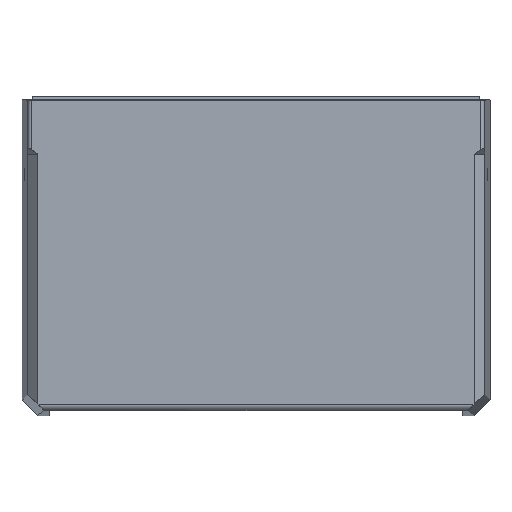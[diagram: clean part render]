
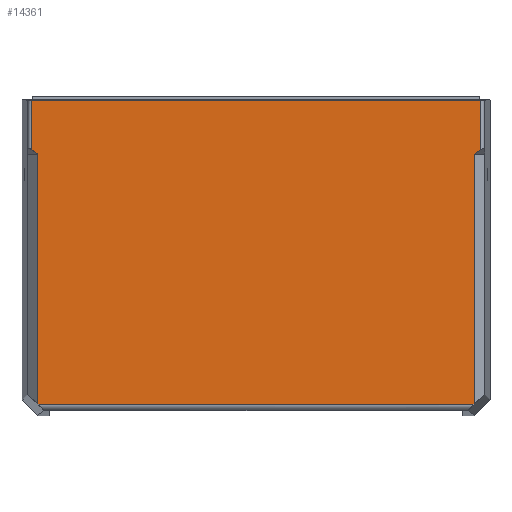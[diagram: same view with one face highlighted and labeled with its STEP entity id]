
A CAD part, front view. The second image highlights one B-rep face of the part: STEP entity #14361.
In plain terms, the highlighted planar face has unit normal (0, -1, 0).
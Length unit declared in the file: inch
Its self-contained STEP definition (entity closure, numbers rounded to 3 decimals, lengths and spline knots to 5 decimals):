
#44 = VERTEX_POINT ( 'NONE', #3084 ) ;
#149 = DIRECTION ( 'NONE',  ( 0.706, 0., 0.708 ) ) ;
#418 = LINE ( 'NONE', #8762, #12463 ) ;
#542 = EDGE_CURVE ( 'NONE', #14111, #7398, #785, .T. ) ;
#630 = ORIENTED_EDGE ( 'NONE', *, *, #2948, .T. ) ;
#719 = EDGE_CURVE ( 'NONE', #3159, #44, #6921, .T. ) ;
#785 = LINE ( 'NONE', #11101, #10366 ) ;
#852 = EDGE_CURVE ( 'NONE', #6594, #2374, #5426, .T. ) ;
#983 = EDGE_CURVE ( 'NONE', #12293, #9006, #15307, .T. ) ;
#1132 = LINE ( 'NONE', #2767, #13229 ) ;
#1385 = EDGE_LOOP ( 'NONE', ( #9151, #11467, #2116, #10985, #10974, #15006, #1973, #4895, #8245, #13675, #630 ) ) ;
#1405 = VERTEX_POINT ( 'NONE', #5445 ) ;
#1439 = CARTESIAN_POINT ( 'NONE',  ( 3.73895, -1.971, -2.5663 ) ) ;
#1567 = DIRECTION ( 'NONE',  ( 1., 0., 0. ) ) ;
#1973 = ORIENTED_EDGE ( 'NONE', *, *, #4006, .T. ) ;
#1975 = CARTESIAN_POINT ( 'NONE',  ( -3.76193, -1.971, 1.75293 ) ) ;
#2113 = DIRECTION ( 'NONE',  ( 0.708, 0., -0.706 ) ) ;
#2116 = ORIENTED_EDGE ( 'NONE', *, *, #12974, .T. ) ;
#2318 = FACE_OUTER_BOUND ( 'NONE', #1385, .T. ) ;
#2374 = VERTEX_POINT ( 'NONE', #13072 ) ;
#2762 = DIRECTION ( 'NONE',  ( 0.816, 0., 0.577 ) ) ;
#2767 = CARTESIAN_POINT ( 'NONE',  ( 3.66033, -1.971, -2.5663 ) ) ;
#2948 = EDGE_CURVE ( 'NONE', #44, #12293, #418, .T. ) ;
#3084 = CARTESIAN_POINT ( 'NONE',  ( 3.76193, -1.971, 1.75354 ) ) ;
#3159 = VERTEX_POINT ( 'NONE', #7693 ) ;
#3322 = CARTESIAN_POINT ( 'NONE',  ( -3.76193, -1.971, -2.54758 ) ) ;
#3329 = CARTESIAN_POINT ( 'NONE',  ( -3.73865, -1.971, -2.5663 ) ) ;
#3347 = VECTOR ( 'NONE', #2113, 39.37008 ) ;
#4006 = EDGE_CURVE ( 'NONE', #2374, #10628, #6499, .T. ) ;
#4052 = CARTESIAN_POINT ( 'NONE',  ( -3.87477, -1.971, 1.87 ) ) ;
#4134 = EDGE_CURVE ( 'NONE', #9006, #1405, #5009, .T. ) ;
#4211 = CARTESIAN_POINT ( 'NONE',  ( 3.87477, -1.971, 2.687 ) ) ;
#4364 = CARTESIAN_POINT ( 'NONE',  ( -3.76607, -1.971, 1.76 ) ) ;
#4802 = DIRECTION ( 'NONE',  ( 0., 0., 1. ) ) ;
#4895 = ORIENTED_EDGE ( 'NONE', *, *, #12030, .T. ) ;
#5009 = LINE ( 'NONE', #9621, #10713 ) ;
#5103 = CARTESIAN_POINT ( 'NONE',  ( -4.035, -1.971, 2.755 ) ) ;
#5105 = EDGE_CURVE ( 'NONE', #6721, #3159, #13934, .T. ) ;
#5426 = LINE ( 'NONE', #3322, #11137 ) ;
#5445 = CARTESIAN_POINT ( 'NONE',  ( -3.87477, -1.971, 2.687 ) ) ;
#5541 =( BOUNDED_CURVE ( )  B_SPLINE_CURVE ( 3, ( #1975, #9159, #11632, #4364 ),
 .UNSPECIFIED., .F., .T. ) 
 B_SPLINE_CURVE_WITH_KNOTS ( ( 4, 4 ),
 ( 0., 0.7854 ),
 .UNSPECIFIED. ) 
 CURVE ( )  GEOMETRIC_REPRESENTATION_ITEM ( )  RATIONAL_B_SPLINE_CURVE ( ( 1., 0.949, 0.949, 1. ) ) 
 REPRESENTATION_ITEM ( '' )  );
#5559 = VECTOR ( 'NONE', #13733, 39.37008 ) ;
#5599 = VECTOR ( 'NONE', #10986, 39.37008 ) ;
#5833 = CARTESIAN_POINT ( 'NONE',  ( -3.76193, -1.971, 1.75293 ) ) ;
#5932 = LINE ( 'NONE', #4052, #5559 ) ;
#6285 = DIRECTION ( 'NONE',  ( 0., 1., 0. ) ) ;
#6365 = CARTESIAN_POINT ( 'NONE',  ( -3.76607, -1.971, 1.76 ) ) ;
#6499 = LINE ( 'NONE', #9363, #3347 ) ;
#6594 = VERTEX_POINT ( 'NONE', #5833 ) ;
#6721 = VERTEX_POINT ( 'NONE', #1439 ) ;
#6921 = LINE ( 'NONE', #7409, #13437 ) ;
#7224 = DIRECTION ( 'NONE',  ( 0., 0., -1. ) ) ;
#7398 = VERTEX_POINT ( 'NONE', #6365 ) ;
#7409 = CARTESIAN_POINT ( 'NONE',  ( 3.76193, -1.971, 2.755 ) ) ;
#7693 = CARTESIAN_POINT ( 'NONE',  ( 3.76193, -1.971, -2.54325 ) ) ;
#8225 = CARTESIAN_POINT ( 'NONE',  ( -3.87477, -1.971, 1.83686 ) ) ;
#8245 = ORIENTED_EDGE ( 'NONE', *, *, #5105, .T. ) ;
#8486 = EDGE_CURVE ( 'NONE', #6594, #7398, #5541, .T. ) ;
#8518 = CARTESIAN_POINT ( 'NONE',  ( 3.76071, -1.971, -2.54447 ) ) ;
#8762 = CARTESIAN_POINT ( 'NONE',  ( -0.96393, -1.971, -1.58815 ) ) ;
#9006 = VERTEX_POINT ( 'NONE', #4211 ) ;
#9151 = ORIENTED_EDGE ( 'NONE', *, *, #983, .T. ) ;
#9159 = CARTESIAN_POINT ( 'NONE',  ( -3.76193, -1.971, 1.75562 ) ) ;
#9363 = CARTESIAN_POINT ( 'NONE',  ( -3.74195, -1.971, -2.56301 ) ) ;
#9621 = CARTESIAN_POINT ( 'NONE',  ( -4.035, -1.971, 2.687 ) ) ;
#9715 = AXIS2_PLACEMENT_3D ( 'NONE', #5103, #6285, #14834 ) ;
#10366 = VECTOR ( 'NONE', #11128, 39.37008 ) ;
#10628 = VERTEX_POINT ( 'NONE', #3329 ) ;
#10713 = VECTOR ( 'NONE', #13326, 39.37008 ) ;
#10952 = CARTESIAN_POINT ( 'NONE',  ( 3.87477, -1.971, 2.692 ) ) ;
#10974 = ORIENTED_EDGE ( 'NONE', *, *, #8486, .F. ) ;
#10985 = ORIENTED_EDGE ( 'NONE', *, *, #542, .T. ) ;
#10986 = DIRECTION ( 'NONE',  ( 0., 0., 1. ) ) ;
#11101 = CARTESIAN_POINT ( 'NONE',  ( -4.4144, -1.971, 2.21844 ) ) ;
#11128 = DIRECTION ( 'NONE',  ( 0.816, 0., -0.577 ) ) ;
#11137 = VECTOR ( 'NONE', #7224, 39.37008 ) ;
#11467 = ORIENTED_EDGE ( 'NONE', *, *, #4134, .T. ) ;
#11632 = CARTESIAN_POINT ( 'NONE',  ( -3.76338, -1.971, 1.7581 ) ) ;
#12030 = EDGE_CURVE ( 'NONE', #10628, #6721, #1132, .T. ) ;
#12293 = VERTEX_POINT ( 'NONE', #12972 ) ;
#12383 = PLANE ( 'NONE',  #9715 ) ;
#12463 = VECTOR ( 'NONE', #2762, 39.37008 ) ;
#12972 = CARTESIAN_POINT ( 'NONE',  ( 3.87477, -1.971, 1.83332 ) ) ;
#12974 = EDGE_CURVE ( 'NONE', #1405, #14111, #5932, .T. ) ;
#13072 = CARTESIAN_POINT ( 'NONE',  ( -3.76193, -1.971, -2.54309 ) ) ;
#13229 = VECTOR ( 'NONE', #1567, 39.37008 ) ;
#13326 = DIRECTION ( 'NONE',  ( -1., 0., 0. ) ) ;
#13437 = VECTOR ( 'NONE', #4802, 39.37008 ) ;
#13675 = ORIENTED_EDGE ( 'NONE', *, *, #719, .T. ) ;
#13733 = DIRECTION ( 'NONE',  ( 0., 0., -1. ) ) ;
#13934 = LINE ( 'NONE', #8518, #15466 ) ;
#14111 = VERTEX_POINT ( 'NONE', #8225 ) ;
#14361 = ADVANCED_FACE ( 'NONE', ( #2318 ), #12383, .F. ) ;
#14834 = DIRECTION ( 'NONE',  ( 0., 0., 1. ) ) ;
#15006 = ORIENTED_EDGE ( 'NONE', *, *, #852, .T. ) ;
#15307 = LINE ( 'NONE', #10952, #5599 ) ;
#15466 = VECTOR ( 'NONE', #149, 39.37008 ) ;
